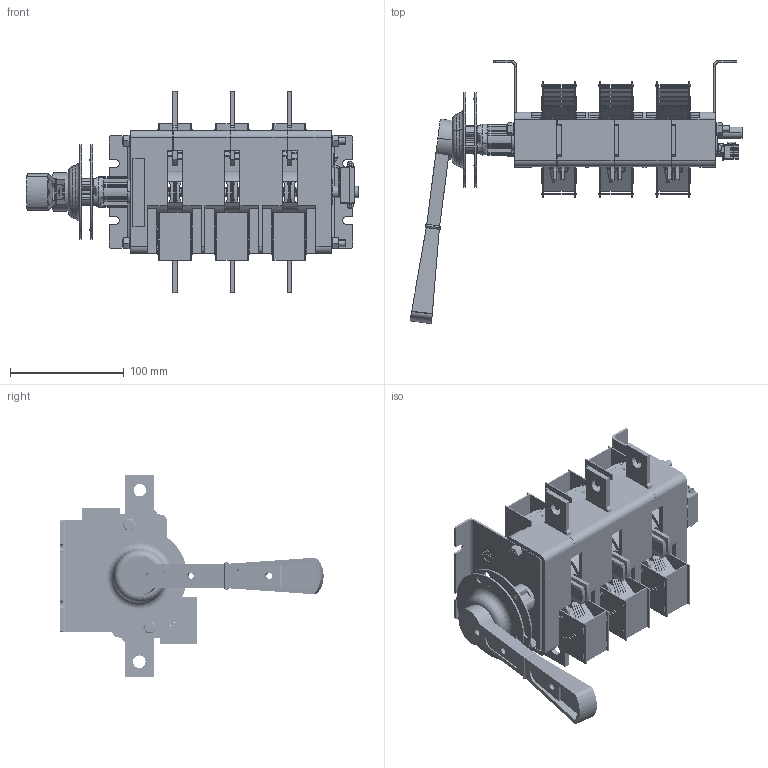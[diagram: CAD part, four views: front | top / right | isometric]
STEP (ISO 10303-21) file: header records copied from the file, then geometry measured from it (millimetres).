
FILE_DESCRIPTION (( 'STEP AP214' ), '1' );
FILE_NAME ('ﾂﾐ32-37ﾔ ﾃﾆﾈﾊ.642523.008-00 (ﾂ31251-400ﾀ).STEP', '2022-07-14T10:58:55', ( '' ), ( '' ), 'SwSTEP 2.0', 'SolidWorks 2018', '' );
FILE_SCHEMA (( 'AUTOMOTIVE_DESIGN' ));
Length unit declared in the file: millimetre
Products named in the file (44): ﾘ琺矜 ﾃﾆﾈﾊ.758491.056; Êîíòàêò ïîäâèæíûé ÃÆÈÊ.685179.145; 殃钺郷闷仁.745326.025; Ïëàñòèíà óïðàâëåíèÿ; ﾂ琿 ﾃﾆﾈﾊ.715274.003; Ðóêîÿòêà ÃÆÈÊ.303658.010; 锐牮钽囫栩咫羅闷仁.686433.003; Âèíò Â.Ì4-6g_-00 (Œ4å8); ﾂ鏆鮏 ﾃﾆﾈﾊ.745485.005; 锐牮钽囫栩咫黖闷仁.741271.007; 枔膴闀歑樏錌欑蠈錪 蟠61; ﾘ琺矜 D32; ﾎﾁﾎﾋﾎﾗﾊﾀ_ﾍ; ﾘ琺矜 6 65ﾃ 016; 想囫蜩磬_-01 (帷獱); Øïèëüêà Ì6 ÃÆÈÊ.758292.005; Êîíòàêò ïîäâèæíûé_ÃÆÈÊ.745355.013; ﾘ琺矜 D15; 澡犟囹铕 闷仁.745484.003; Èñêðîãàñèòåëü_ÃÆÈÊ.741271.007_-01(®â¢¥àáâ¨ï); 蓐聆屙蝠桕 闷仁.751621.002; 澡犟囹铕_闷仁.745484.006; Òàáëè÷êà äëÿ ñáîðêè ÷èñòàÿ áîëüøàÿ; Áîêîâèíà ïðàâàÿ ÃÆÈÊ.735224.026; Êîðïóñ ñðåäíèé ÃÆÈÊ.735384.046; ﾏ跖浯 ﾃﾆﾈﾊ.753553.010; 买箅赅 闷仁.713141.010; Êîðïóñ ëåâûé ÃÆÈÊ.735384.047; 想囫蜩磬_闷仁.745355.007; 噪囗弼 闷仁.712378.001; 想囫蜩磬_闷仁.745355.008; 抔樖罻; ﾘ琺矜 4; 务黖闷仁.715411.019; 暑痫篑 镳噔 闷仁.735384.045; Êàìåðà äóãîãàñèòåëüíàÿ ÃÆÈÊ.686431.025; Ãàéêà 2Ì6-6Í.5.016; Òàáëè÷êà äëÿ ñáîðêè ÷èñòàÿ; Ïðîêëàäêà ÃÆÈÊ.741233.006_-01(¤«ï ç¥àâ¥¦ ); ﾂﾐ32-37ﾔ ﾃﾆﾈﾊ.642523.008-00 (ﾂ31251-400ﾀ)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
Assembly tree (77 placements, depth 4):
  ﾂﾐ32-37ﾔ ﾃﾆﾈﾊ.642523.008-00 (ﾂ31251-400ﾀ)
    ﾂ琿 ﾃﾆﾈﾊ.715274.003
    Êîðïóñ ëåâûé ÃÆÈÊ.735384.047
    Êîðïóñ ñðåäíèé ÃÆÈÊ.735384.046  x2
    暑痫篑 镳噔 闷仁.735384.045
    Áîêîâèíà ëåâàÿ ÃÆÈÊ.735224.027
    Áîêîâèíà ïðàâàÿ ÃÆÈÊ.735224.026
    Êàìåðà äóãîãàñèòåëüíàÿ ÃÆÈÊ.686431.025  x6
      想囫蜩磬_闷仁.745355.008
      羊屙赅_闷仁.741226.003
      锐牮钽囫栩咫黖闷仁.741271.007
      锐牮钽囫栩咫羅闷仁.686433.003
        殃钺郷闷仁.745326.025
        Èñêðîãàñèòåëü_ÃÆÈÊ.741271.007_-01(®â¢¥àáâ¨ï)
        抔樖罻  x2
    Êîíòàêò ïîäâèæíûé ÃÆÈÊ.685179.145  x3
      Êîíòàêò ïîäâèæíûé_ÃÆÈÊ.745355.013
      想囫蜩磬_闷仁.745355.007
      澡犟囹铕_闷仁.745484.006
      务黖闷仁.715411.019
      ﾏ跖浯_ﾃﾆﾈﾊ.753553.011_-01 (癸ｮ爼)
    Øïèëüêà Ì6 ÃÆÈÊ.758292.005  x2
    Ãàéêà 2Ì6-6Í.5.016  x4
    ﾘ琺矜 6 65ﾃ 016  x4
    ﾏ跖浯 ﾃﾆﾈﾊ.753553.010  x2
    澡犟囹铕 闷仁.745484.003  x2
    蓐聆屙蝠桕 闷仁.751621.002
    Ïðîêëàäêà ÃÆÈÊ.741233.006_-01(¤«ï ç¥àâ¥¦ )  x2
    Ðóêîÿòêà ÃÆÈÊ.303658.010
      ﾘ琺矜 D32
      ﾘ琺矜 D15
      Ïëàñòèíà óïðàâëåíèÿ
      想囫蜩磬_-01 (帷獱)
      ﾎﾁﾎﾋﾎﾗﾊﾀ_ﾍ
    买箅赅 闷仁.713141.010
    ﾘ琺矜 ﾃﾆﾈﾊ.758491.056
    噪囗弼 闷仁.712378.001
    ﾂ鏆鮏 ﾃﾆﾈﾊ.745485.005  x6
    ﾊ煇鳫 ﾃﾆﾈﾊ.745357.005
    枔膴闀歑樏錌欑蠈錪 蟠61
    ﾘ琺矜 4
    Âèíò Â.Ì4-6g_-00 (Œ4å8)
    Òàáëè÷êà äëÿ ñáîðêè ÷èñòàÿ
    Òàáëè÷êà äëÿ ñáîðêè ÷èñòàÿ áîëüøàÿ
Bounding box: 291.36 x 231.02 x 176.5 mm (x, y, z)
Volume: 654263.5 mm3; surface area: 477851.3 mm2
Topology: 144 solids, 144 shells, 5046 faces, 13071 edges, 8417 vertices
Faces by surface type: plane 3452, cylinder 1305, bspline 117, cone 70, sphere 56, torus 46
Entity records: 143003 total; most frequent: CARTESIAN_POINT 93172, DIRECTION 9890, ORIENTED_EDGE 9770, EDGE_CURVE 4885, AXIS2_PLACEMENT_3D 3357, LINE 3176, VECTOR 3176, VERTEX_POINT 3165
